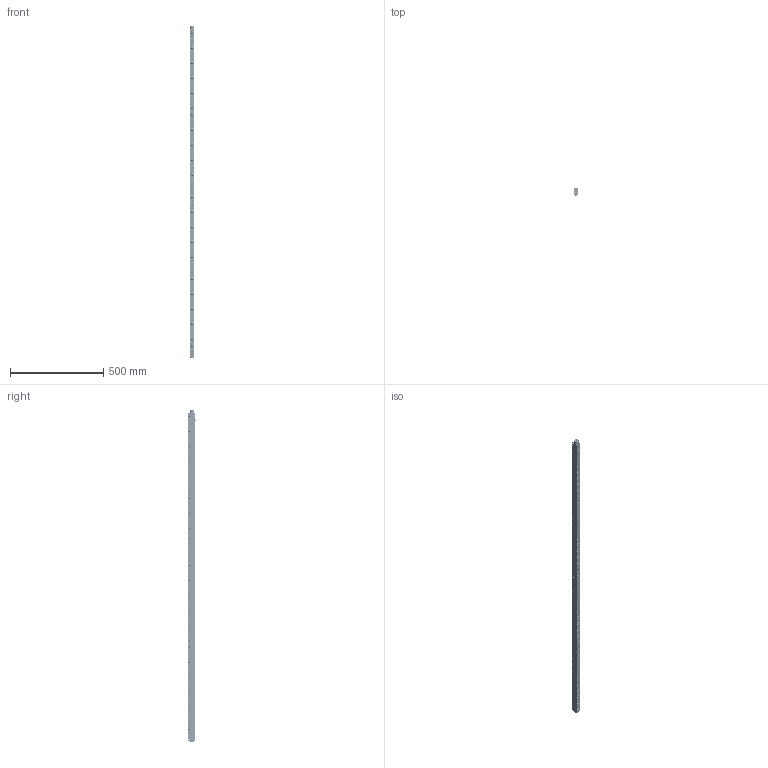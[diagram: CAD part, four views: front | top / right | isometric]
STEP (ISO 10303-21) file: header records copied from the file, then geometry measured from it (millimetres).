
FILE_DESCRIPTION(/* description */ ('EHR22-44'),/* implementation_level */ '2;1');
FILE_NAME(/* name */ 'S:\EASCN Vault\Designs\Standard Part\DIE LIFTERS\EHR\EHR- 3D step\EHR22 - 3D step complete serie\EHR22-44.stp',/* time_stamp */ '2019-10-29T13:18:33+08:00',/* author */ ('yue.yang'),/* organization */ (''),/* preprocessor_version */ 'ST-DEVELOPER v17',/* originating_system */ 'Autodesk Inventor 2019',/* authorisation */ '');
FILE_SCHEMA (('AUTOMOTIVE_DESIGN { 1 0 10303 214 3 1 1 }'));
Products named in the file (2): EHR22-44; EHR22-44_Substitute_1
Assembly tree (1 placements, depth 2):
  EHR22-44
    EHR22-44_Substitute_1
Bounding box: 21.8 x 48.05 x 1782 mm (x, y, z)
Volume: 1095314.6 mm3; surface area: 446980.9 mm2
Topology: 150 solids, 150 shells, 2405 faces, 6776 edges, 4709 vertices
Faces by surface type: cylinder 837, plane 564, cone 510, torus 404, sphere 90
Full cylindrical faces by diameter (mm): 2.459 x16, 3 x9, 3.2 x8, 4 x20, 5 x132, 6 x54, 7.5 x2, 8.566 x1, 10 x11, 11 x44, 12.5 x88, 13.4 x44, 13.8 x44, 15.95 x88, 16 x88
Entity records: 87987 total; most frequent: CARTESIAN_POINT 19651, DIRECTION 15285, ORIENTED_EDGE 13412, AXIS2_PLACEMENT_3D 6819, EDGE_CURVE 6706, VERTEX_POINT 4709, CIRCLE 4411, EDGE_LOOP 2839
